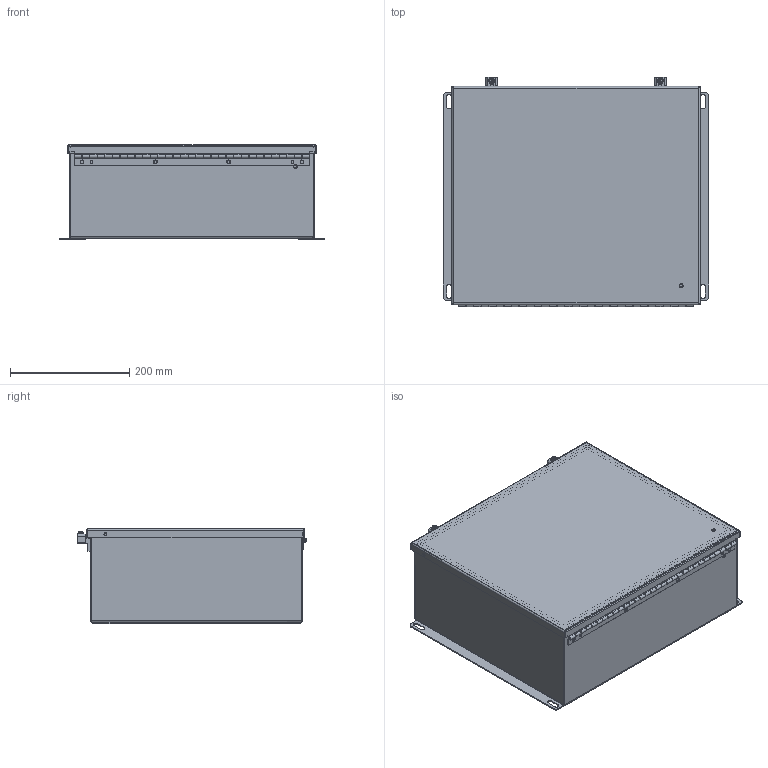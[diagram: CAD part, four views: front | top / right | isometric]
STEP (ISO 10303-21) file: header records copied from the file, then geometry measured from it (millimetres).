
FILE_DESCRIPTION((''),'2;1');
FILE_NAME('MODEL-330_ASM','2025-07-01T14:43:11',('johnh'),('SAGINAW CONTROL & ENGINEERING'),'CREO PARAMETRIC BY PTC INC, 2021284','CREO PARAMETRIC BY PTC INC, 2021284','');
FILE_SCHEMA(('AUTOMOTIVE_DESIGN { 1 0 10303 214 1 1 1 1 }'));
Length unit declared in the file: inch
Products named in the file (22): MODEL-330-BDY; MODEL-330-DR; 100063; 100009; 125826-BASE; 125826-PEM-STUD; 125826-CLAMP; 125826-BOLT; 125826_ASM; 100897; 104983; 122256; MODEL-330-HNG-PN; MODEL-330-HNG-BX; MODEL-330-HNG-DR; 100062; MODEL-330-HNG_ASM; MODEL-330-GSKT; CH-ELJ_SUBPANEL; 102479; CH-ELJ_SUBPANEL-SUBASSEMBLY_ASM; MODEL-330_ASM
Assembly tree (42 placements, depth 3):
  MODEL-330_ASM
    MODEL-330-BDY
    MODEL-330-DR
    100063  x2
    100009  x6
    125826_ASM  x2
      125826-BASE
      125826-PEM-STUD
      125826-CLAMP
      125826-BOLT
    100897  x6
    104983  x2
    122256
    MODEL-330-HNG_ASM
      MODEL-330-HNG-PN
      MODEL-330-HNG-BX
      MODEL-330-HNG-DR
      100062  x4
    MODEL-330-GSKT
    CH-ELJ_SUBPANEL-SUBASSEMBLY_ASM
      CH-ELJ_SUBPANEL
      102479  x6
Bounding box: 444.5 x 383.65 x 159.13 mm (x, y, z)
Volume: 1245317.1 mm3; surface area: 1529216.2 mm2
Topology: 41 solids, 41 shells, 2162 faces, 5292 edges, 3132 vertices
Faces by surface type: plane 972, cylinder 664, bspline 266, torus 128, sphere 68, cone 64
Entity records: 60583 total; most frequent: CARTESIAN_POINT 19236, ORIENTED_EDGE 5934, DIRECTION 5903, PRESENTATION_STYLE_ASSIGNMENT 2984, STYLED_ITEM 2984, CURVE_STYLE 2967, EDGE_CURVE 2967, AXIS2_PLACEMENT_3D 2053
